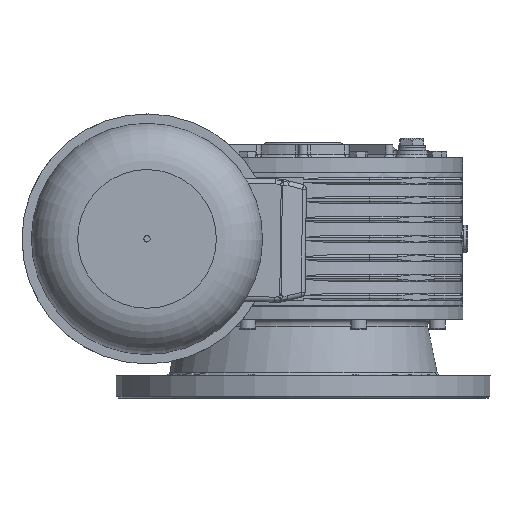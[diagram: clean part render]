
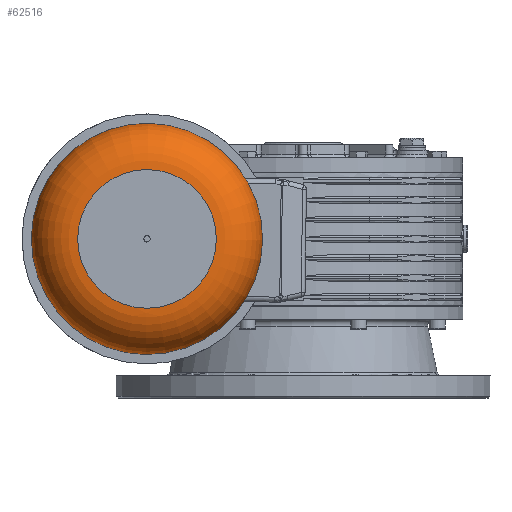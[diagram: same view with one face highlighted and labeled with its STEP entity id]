
A CAD part, left-side view. The second image highlights one B-rep face of the part: STEP entity #62516.
In plain terms, the highlighted toroidal (fillet/blend) face has major radius 55.5 mm and minor radius 37 mm.
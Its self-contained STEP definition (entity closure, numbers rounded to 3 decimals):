
#62489=CARTESIAN_POINT('',(375.0,0.0,0.0));
#62490=DIRECTION('',(1.0,0.0,0.0));
#62491=DIRECTION('',(0.0,0.0,-1.0));
#62492=AXIS2_PLACEMENT_3D('',#62489,#62490,#62491);
#62493=TOROIDAL_SURFACE('',#62492,55.5,37.0);
#62494=CARTESIAN_POINT('',(412.,55.5,0.0));
#62495=VERTEX_POINT('',#62494);
#62496=CARTESIAN_POINT('',(412.,0.0,0.0));
#62497=DIRECTION('',(1.0,0.0,0.0));
#62498=DIRECTION('',(0.0,1.0,0.0));
#62499=AXIS2_PLACEMENT_3D('',#62496,#62497,#62498);
#62500=CIRCLE('',#62499,55.5);
#62501=EDGE_CURVE('',#62495,#62495,#62500,.T.);
#62502=ORIENTED_EDGE('',*,*,#62501,.F.);
#62503=EDGE_LOOP('',(#62502));
#62504=FACE_OUTER_BOUND('',#62503,.T.);
#62505=CARTESIAN_POINT('',(375.0,92.5,0.0));
#62506=VERTEX_POINT('',#62505);
#62507=CARTESIAN_POINT('',(375.0,0.0,0.0));
#62508=DIRECTION('',(1.0,0.0,0.0));
#62509=DIRECTION('',(0.0,1.0,0.0));
#62510=AXIS2_PLACEMENT_3D('',#62507,#62508,#62509);
#62511=CIRCLE('',#62510,92.5);
#62512=EDGE_CURVE('',#62506,#62506,#62511,.T.);
#62513=ORIENTED_EDGE('',*,*,#62512,.T.);
#62514=EDGE_LOOP('',(#62513));
#62515=FACE_BOUND('',#62514,.T.);
#62516=ADVANCED_FACE('',(#62504,#62515),#62493,.T.);
